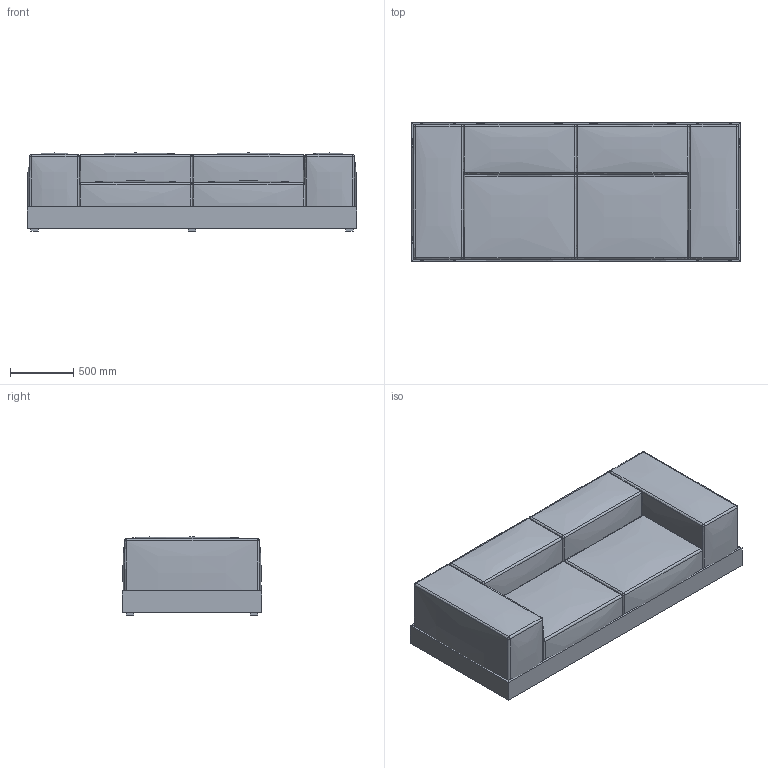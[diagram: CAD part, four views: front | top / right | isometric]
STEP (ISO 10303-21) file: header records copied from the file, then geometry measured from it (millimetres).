
FILE_DESCRIPTION(/* description */ (''),/* implementation_level */ '2;1');
FILE_NAME(/* name */ 'Polp1 260 brl.step',/* time_stamp */ '2024-01-07T10:23:00+01:00',/* author */ (''),/* organization */ (''),/* preprocessor_version */ 'ST-DEVELOPER v20',/* originating_system */ 'Autodesk Translation Framework v12.14.0.127',/* authorisation */ '');
FILE_SCHEMA (('AUTOMOTIVE_DESIGN { 1 0 10303 214 3 1 1 }'));
Length unit declared in the file: millimetre
Products named in the file (7): Polp1 260 brl; Component1; Component2; Component5; Component6; Component7; Component8
Assembly tree (6 placements, depth 2):
  Polp1 260 brl
    Component1
    Component2
    Component5
    Component6
    Component7
    Component8
Bounding box: 2600 x 1100 x 615 mm (x, y, z)
Volume: 1346462891.6 mm3; surface area: 21899630.7 mm2
Topology: 22 solids, 22 shells, 252 faces, 480 edges, 272 vertices
Faces by surface type: plane 112, bspline 78, sphere 48, cylinder 14
Entity records: 15087 total; most frequent: CARTESIAN_POINT 10215, ORIENTED_EDGE 960, DIRECTION 882, EDGE_CURVE 480, AXIS2_PLACEMENT_3D 331, VERTEX_POINT 272, FACE_OUTER_BOUND 252, EDGE_LOOP 252
